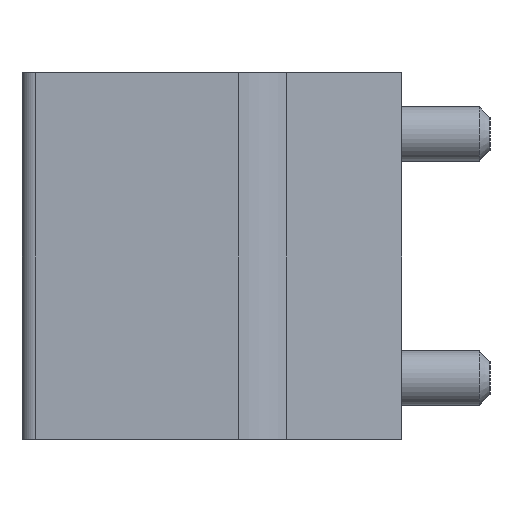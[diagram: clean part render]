
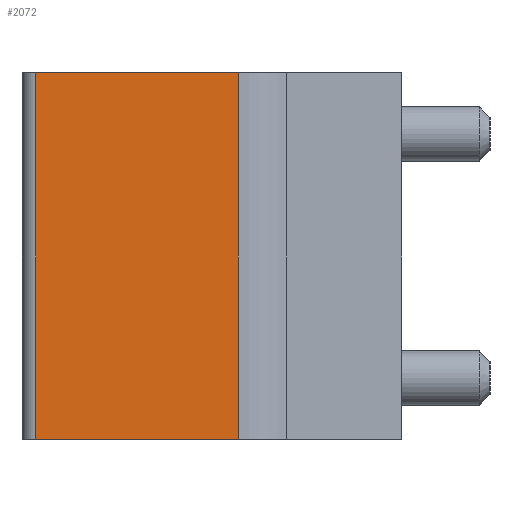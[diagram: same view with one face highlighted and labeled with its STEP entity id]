
A CAD part, left-side view. The second image highlights one B-rep face of the part: STEP entity #2072.
In plain terms, the highlighted planar face has unit normal (-1, 0, 0).
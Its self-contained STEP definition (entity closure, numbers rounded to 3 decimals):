
#345 = VERTEX_POINT ( 'NONE', #4610 ) ;
#725 = ORIENTED_EDGE ( 'NONE', *, *, #6645, .F. ) ;
#978 = PLANE ( 'NONE',  #3965 ) ;
#1113 = EDGE_CURVE ( 'NONE', #5381, #3009, #5389, .T. ) ;
#1402 = LINE ( 'NONE', #5599, #3127 ) ;
#1490 = CARTESIAN_POINT ( 'NONE',  ( -34.482, -26.7, 13.5 ) ) ;
#1636 = ORIENTED_EDGE ( 'NONE', *, *, #5809, .F. ) ;
#1801 = ORIENTED_EDGE ( 'NONE', *, *, #1113, .F. ) ;
#2067 = DIRECTION ( 'NONE',  ( 0., 0., -1. ) ) ;
#2072 = ADVANCED_FACE ( 'NONE', ( #5387 ), #978, .F. ) ;
#2201 = DIRECTION ( 'NONE',  ( 0., 0., -1. ) ) ;
#2226 = CARTESIAN_POINT ( 'NONE',  ( -34.482, -24.629, 13.5 ) ) ;
#2711 = CARTESIAN_POINT ( 'NONE',  ( -34.482, -24.629, -13.5 ) ) ;
#2733 = DIRECTION ( 'NONE',  ( 1., 0., 0. ) ) ;
#3009 = VERTEX_POINT ( 'NONE', #5686 ) ;
#3117 = VERTEX_POINT ( 'NONE', #5365 ) ;
#3127 = VECTOR ( 'NONE', #5586, 1000. ) ;
#3230 = ORIENTED_EDGE ( 'NONE', *, *, #5049, .T. ) ;
#3268 = CARTESIAN_POINT ( 'NONE',  ( -34.482, -36.7, 13.5 ) ) ;
#3279 = DIRECTION ( 'NONE',  ( 0., 1., 0. ) ) ;
#3965 = AXIS2_PLACEMENT_3D ( 'NONE', #1490, #2733, #2067 ) ;
#4249 = VECTOR ( 'NONE', #3279, 1000. ) ;
#4267 = EDGE_LOOP ( 'NONE', ( #1636, #3230, #725, #1801 ) ) ;
#4606 = VECTOR ( 'NONE', #2201, 1000. ) ;
#4610 = CARTESIAN_POINT ( 'NONE',  ( -34.482, -9.7, 13.5 ) ) ;
#4883 = CARTESIAN_POINT ( 'NONE',  ( -34.482, -36.7, -13.5 ) ) ;
#4973 = DIRECTION ( 'NONE',  ( 0., 1., 0. ) ) ;
#5049 = EDGE_CURVE ( 'NONE', #3117, #345, #5538, .T. ) ;
#5365 = CARTESIAN_POINT ( 'NONE',  ( -34.482, -24.629, 13.5 ) ) ;
#5381 = VERTEX_POINT ( 'NONE', #2711 ) ;
#5387 = FACE_OUTER_BOUND ( 'NONE', #4267, .T. ) ;
#5389 = LINE ( 'NONE', #4883, #6649 ) ;
#5538 = LINE ( 'NONE', #3268, #4249 ) ;
#5586 = DIRECTION ( 'NONE',  ( 0., 0., 1. ) ) ;
#5599 = CARTESIAN_POINT ( 'NONE',  ( -34.482, -9.7, 13.5 ) ) ;
#5686 = CARTESIAN_POINT ( 'NONE',  ( -34.482, -9.7, -13.5 ) ) ;
#5809 = EDGE_CURVE ( 'NONE', #3117, #5381, #6161, .T. ) ;
#6161 = LINE ( 'NONE', #2226, #4606 ) ;
#6645 = EDGE_CURVE ( 'NONE', #3009, #345, #1402, .T. ) ;
#6649 = VECTOR ( 'NONE', #4973, 1000. ) ;
